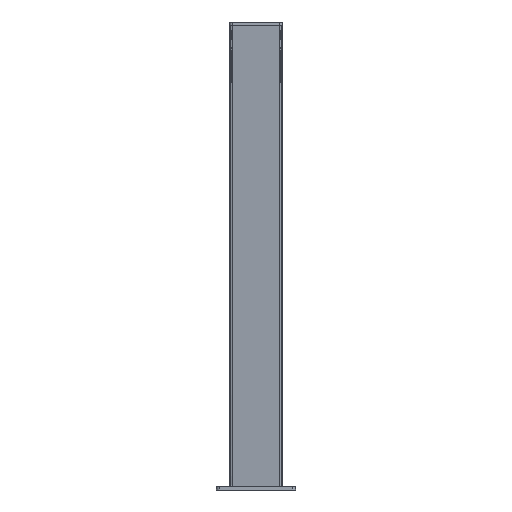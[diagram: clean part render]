
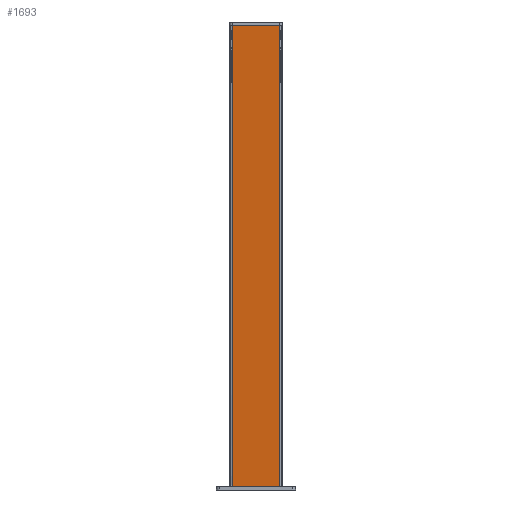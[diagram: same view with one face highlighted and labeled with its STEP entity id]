
A CAD part, front view. The second image highlights one B-rep face of the part: STEP entity #1693.
In plain terms, the highlighted planar face has unit normal (0, -0.995, -0.104).
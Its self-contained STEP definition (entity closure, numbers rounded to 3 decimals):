
#143=PLANE('',#1915);
#211=FACE_OUTER_BOUND('',#309,.T.);
#309=EDGE_LOOP('',(#1340,#1341,#1342,#1343));
#437=LINE('',#2753,#597);
#438=LINE('',#2756,#598);
#439=LINE('',#2758,#599);
#440=LINE('',#2759,#600);
#597=VECTOR('',#2221,10.);
#598=VECTOR('',#2224,10.);
#599=VECTOR('',#2225,10.);
#600=VECTOR('',#2226,10.);
#822=VERTEX_POINT('',#2749);
#823=VERTEX_POINT('',#2751);
#824=VERTEX_POINT('',#2755);
#825=VERTEX_POINT('',#2757);
#1017=EDGE_CURVE('',#822,#823,#437,.T.);
#1018=EDGE_CURVE('',#822,#824,#438,.T.);
#1019=EDGE_CURVE('',#825,#823,#439,.T.);
#1020=EDGE_CURVE('',#824,#825,#440,.T.);
#1340=ORIENTED_EDGE('',*,*,#1018,.F.);
#1341=ORIENTED_EDGE('',*,*,#1017,.T.);
#1342=ORIENTED_EDGE('',*,*,#1019,.F.);
#1343=ORIENTED_EDGE('',*,*,#1020,.F.);
#1693=ADVANCED_FACE('',(#211),#143,.T.);
#1915=AXIS2_PLACEMENT_3D('',#2754,#2222,#2223);
#2221=DIRECTION('',(0.,0.105,-0.995));
#2222=DIRECTION('center_axis',(0.,-0.995,-0.105));
#2223=DIRECTION('ref_axis',(-1.,0.,0.));
#2224=DIRECTION('',(1.,0.,0.));
#2225=DIRECTION('',(-1.,0.,0.));
#2226=DIRECTION('',(0.,0.105,-0.995));
#2749=CARTESIAN_POINT('',(136.557,147.573,215.422));
#2751=CARTESIAN_POINT('',(136.557,221.146,-484.578));
#2753=CARTESIAN_POINT('',(136.557,147.573,215.422));
#2754=CARTESIAN_POINT('Origin',(208.557,147.573,215.422));
#2755=CARTESIAN_POINT('',(208.557,147.573,215.422));
#2756=CARTESIAN_POINT('',(136.557,147.573,215.422));
#2757=CARTESIAN_POINT('',(208.557,221.146,-484.578));
#2758=CARTESIAN_POINT('',(136.557,221.146,-484.578));
#2759=CARTESIAN_POINT('',(208.557,147.573,215.422));
